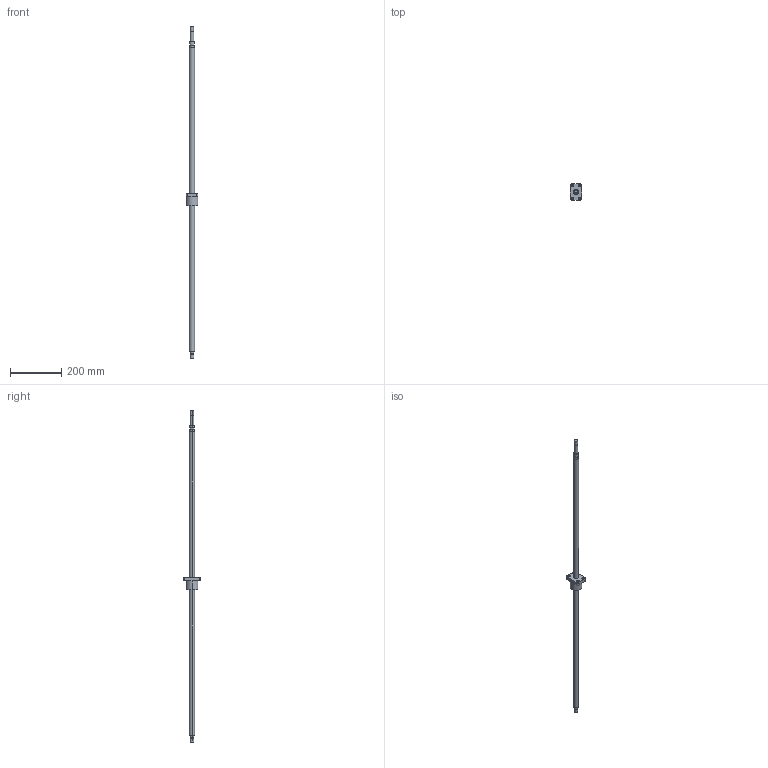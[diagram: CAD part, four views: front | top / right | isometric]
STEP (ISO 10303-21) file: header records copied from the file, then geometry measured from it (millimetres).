
FILE_DESCRIPTION((''),'2;1');
FILE_NAME('R20-10K3-FSC-1189-1299','2008-04-03T',('wcwu'),(''),'PRO/ENGINEER BY PARAMETRIC TECHNOLOGY CORPORATION, 2005070','PRO/ENGINEER BY PARAMETRIC TECHNOLOGY CORPORATION, 2005070','');
FILE_SCHEMA(('CONFIG_CONTROL_DESIGN'));
Length unit declared in the file: millimetre
Products named in the file (1): R20-10K3-FSC-1189-1299
Bounding box: 46 x 66 x 1299 mm (x, y, z)
Volume: 472391 mm3; surface area: 92106.1 mm2
Topology: 1 solids, 1 shells, 65 faces, 146 edges, 96 vertices
Faces by surface type: cylinder 40, plane 25
Entity records: 1906 total; most frequent: DIRECTION 360, CARTESIAN_POINT 307, ORIENTED_EDGE 292, AXIS2_PLACEMENT_3D 149, EDGE_CURVE 146, VERTEX_POINT 96, EDGE_LOOP 86, CIRCLE 84
